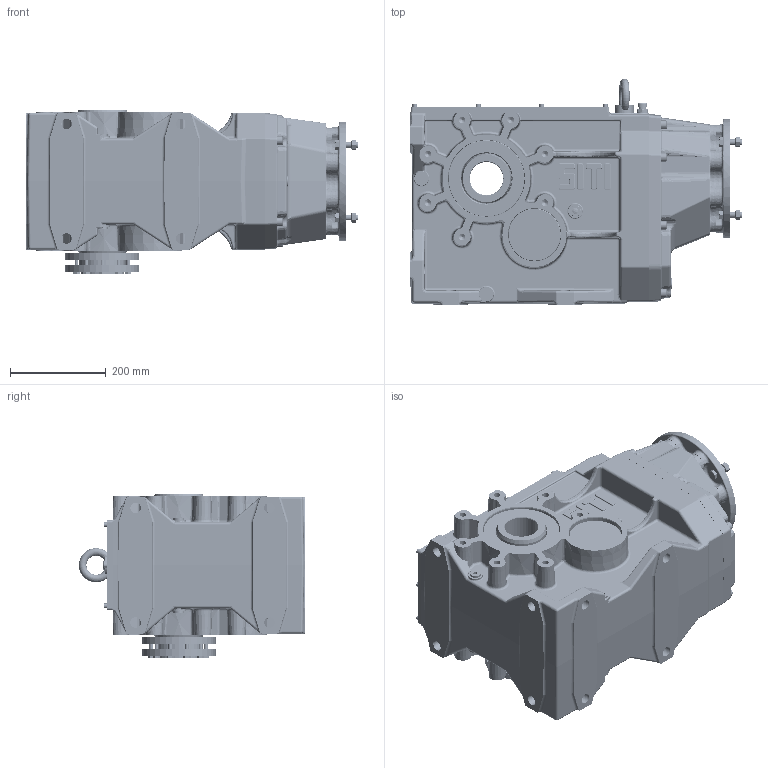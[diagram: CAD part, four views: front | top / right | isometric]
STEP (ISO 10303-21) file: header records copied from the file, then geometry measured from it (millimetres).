
FILE_DESCRIPTION((''),'2;1');
FILE_NAME('C:\Users\m.piscopiello.SITIRIDUTTORI\Desktop\3D x SITO\MBH 140 PAM 100-112\MBH_140 CC-A PAM 100-112 B5.stp','2013-05-10T14:14:57',('m.piscopiello'),(''),'Autodesk Inventor 2012','Autodesk Inventor 2012','');
FILE_SCHEMA(('CONFIG_CONTROL_DESIGN'));
Length unit declared in the file: millimetre
Products named in the file (1): MBH_140 CC-A PAM 100-112 B5
Bounding box: 695 x 473.98 x 345 mm (x, y, z)
Volume: 18695893.6 mm3; surface area: 2885067.7 mm2
Topology: 68 solids, 70 shells, 4456 faces, 10610 edges, 6333 vertices
Faces by surface type: plane 1277, cylinder 1180, bspline 921, torus 476, cone 461, sphere 141
Full cylindrical faces by diameter (mm): 3.15 x2, 3.5 x2, 4.917 x10, 6 x20, 6.4 x10, 7 x10, 8 x10, 9 x20, 10 x10, 10.106 x16, 11.63 x10, 12 x54, 12.5 x12, 13 x16, 13.835 x14, 14 x4, 14.95 x2, 16 x1, 16.6 x6, 17.294 x3, 18 x16, 19.5 x1, 20.5 x16, 22 x9, 25 x1, 26 x1, 30 x3, 38 x1, 40 x1, 70 x2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
Entity records: 167762 total; most frequent: CARTESIAN_POINT 69890, ORIENTED_EDGE 19112, DIRECTION 18554, EDGE_CURVE 9556, AXIS2_PLACEMENT_3D 7905, VERTEX_POINT 6054, EDGE_LOOP 5423, STYLED_ITEM 4523
